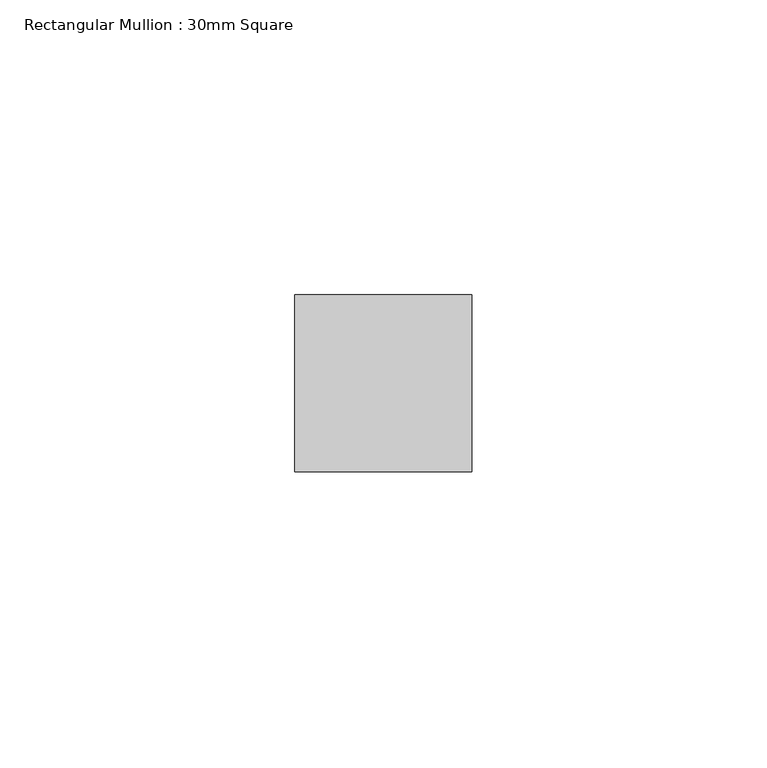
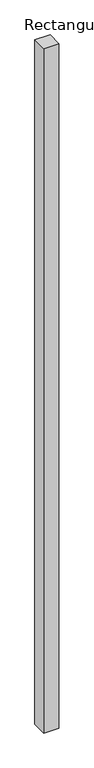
"""IFC4 building model written with IfcOpenShell, lengths in millimetres: member geometry, Rectangular Mullion : 30mm Square."""

from ifc_helpers import new_model, si_unit, frame, origin, place, context, project, spatial, polyline, outline, extrude, source, transform, mapped, element, save


def rectangular_mullion_30mm_square_53f41a94(model_context):
    return source(origin(), model_context, "Body", "SweptSolid", [
        extrude(outline(polyline([(0.0, 15.0), (0.0, -15.0), (-30.0, -15.0), (-30.0, 15.0), (0.0, 15.0)])), frame((0.0, 0.0, -1436.8409863), z_axis=(0.0, 0.0, 1.0), x_axis=(1.0, 0.0, 0.0)), (0.0, 0.0, 1.0), 1436.8409863),
    ])


if __name__ == "__main__":
    model = new_model("IFC4")
    model_context = context("Model", 3, world=origin())
    ifc_project = project(units=[si_unit("LENGTHUNIT", "METRE", prefix="MILLI")], contexts=[model_context])
    site = spatial("IfcSite", under=ifc_project)
    building = spatial("IfcBuilding", under=site)
    placement = place(None, origin())
    rectangular_mullion_30mm_square_shape = rectangular_mullion_30mm_square_53f41a94(model_context)
    element("IfcMember", 1, ObjectType="Rectangular Mullion : 30mm Square", at=placement, inside=building, context=model_context, shape_type="MappedRepresentation", body=[
        mapped(rectangular_mullion_30mm_square_shape, transform((0.0, 0.0, 0.0), x_axis=(1.0, 0.0, 0.0), y_axis=(0.0, 1.0, 0.0), z_axis=(0.0, 0.0, 1.0))),
    ])
    save(model, "model.ifc")
